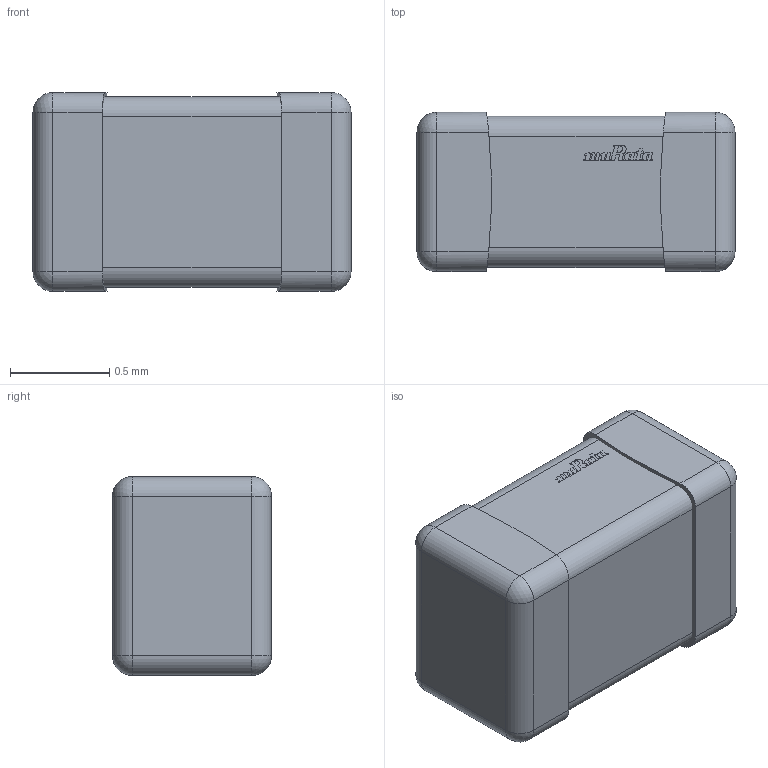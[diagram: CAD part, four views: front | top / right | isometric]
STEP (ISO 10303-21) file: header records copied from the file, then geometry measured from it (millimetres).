
FILE_DESCRIPTION(/* description */ (''),/* implementation_level */ '2;1');
FILE_NAME(/* name */ 'C:\Users\Karem\Desktop\cap 1.6 x 0.8 x 1 x 0.375\3.stp',/* time_stamp */ '2020-04-30T10:24:44+02:00',/* author */ ('Karem'),/* organization */ (''),/* preprocessor_version */ 'ST-DEVELOPER v15.6',/* originating_system */ 'Autodesk Inventor 2015',/* authorisation */ '');
FILE_SCHEMA (('AUTOMOTIVE_DESIGN { 1 0 10303 214 3 1 1 }'));
Products named in the file (4): 1; 2; Murata Logo 3; 3
Bounding box: 1.6 x 0.8 x 1 mm (x, y, z)
Surface area: 11.8 mm2
Topology: 4 solids, 4 shells, 225 faces, 603 edges, 386 vertices
Faces by surface type: cylinder 114, plane 95, sphere 16
Entity records: 7210 total; most frequent: CARTESIAN_POINT 1293, DIRECTION 1279, ORIENTED_EDGE 1206, EDGE_CURVE 603, AXIS2_PLACEMENT_3D 452, VERTEX_POINT 386, LINE 375, VECTOR 375
